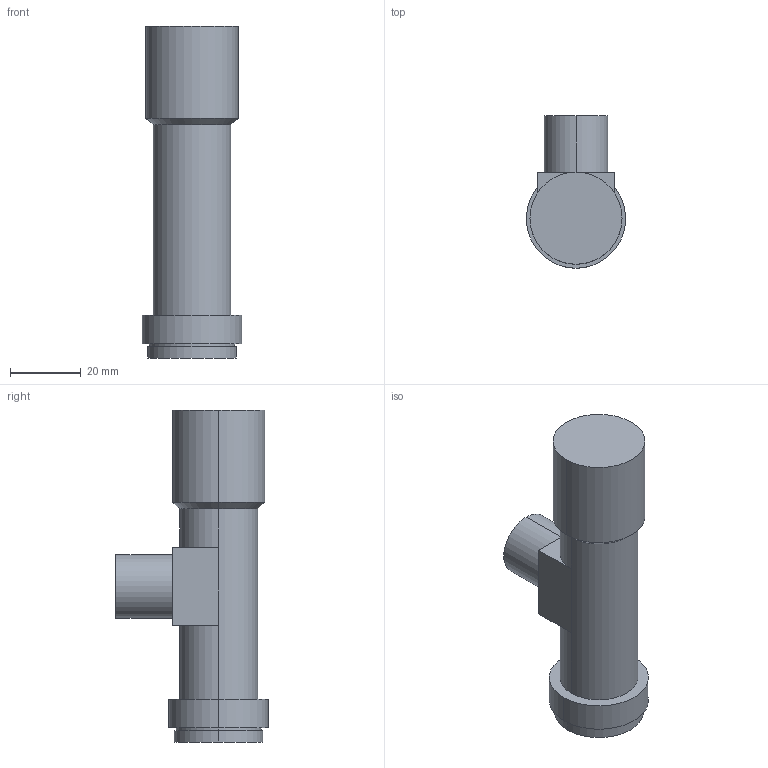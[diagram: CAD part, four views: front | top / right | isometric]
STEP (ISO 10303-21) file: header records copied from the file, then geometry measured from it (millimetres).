
FILE_DESCRIPTION (( 'STEP AP203' ), '1' );
FILE_NAME ('WWH08-65CT.STEP', '2019-12-03T03:07:31', ( 'Windows 蚚誧' ), ( '' ), 'SwSTEP 2.0', 'SolidWorks 2017', '' );
FILE_SCHEMA (( 'CONFIG_CONTROL_DESIGN' ));
Length unit declared in the file: millimetre
Products named in the file (1): WWH08-65CT
Bounding box: 28 x 43 x 93.7 mm (x, y, z)
Volume: 46827.7 mm3; surface area: 10415.3 mm2
Topology: 1 solids, 1 shells, 32 faces, 64 edges, 40 vertices
Faces by surface type: cylinder 17, plane 13, cone 2
Entity records: 915 total; most frequent: DIRECTION 164, CARTESIAN_POINT 137, ORIENTED_EDGE 128, AXIS2_PLACEMENT_3D 67, EDGE_CURVE 64, VERTEX_POINT 40, EDGE_LOOP 38, CIRCLE 34
